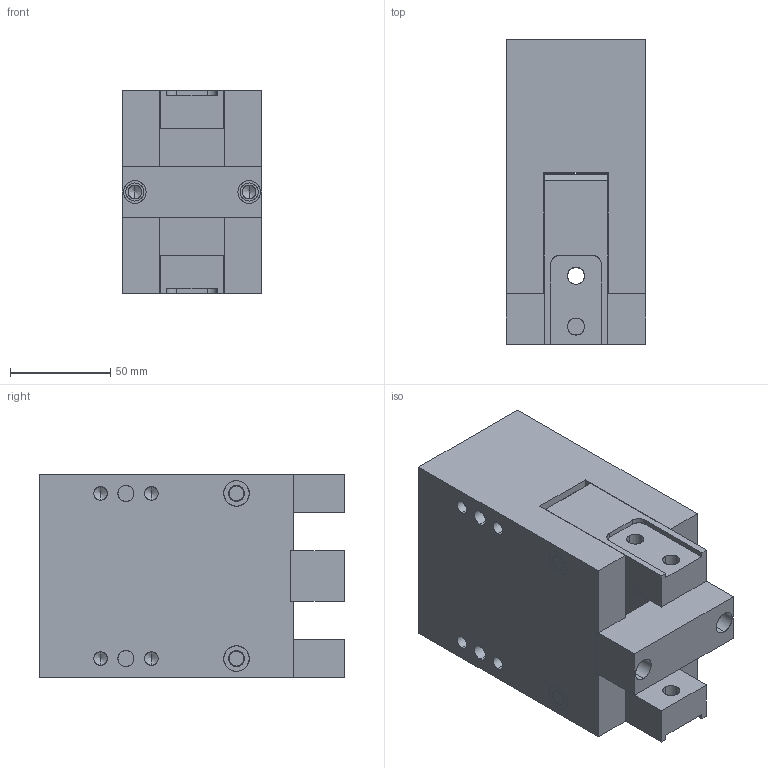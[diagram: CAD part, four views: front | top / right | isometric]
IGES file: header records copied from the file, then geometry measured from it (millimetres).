
Start section: SolidWorks IGES file using analytic representation for surfaces
Global section: file name: C:\Users\jmkuhnes\Pictures\AGA\AGA-50\AGA-50 CLOSED in MM.IGS; native system: SolidWorks 2013; preprocessor: SolidWorks 2013; author: jmkuhnes; date: 141103.144717; units: millimetre
Bounding box: 69.85 x 152.4 x 101.6 mm (x, y, z)
Surface area: 116475.4 mm2 (no closed solid volume)
Topology: 0 solids, 0 shells, 199 faces, 3406 edges, 3386 vertices
Faces by surface type: revolution 123, bspline 76
